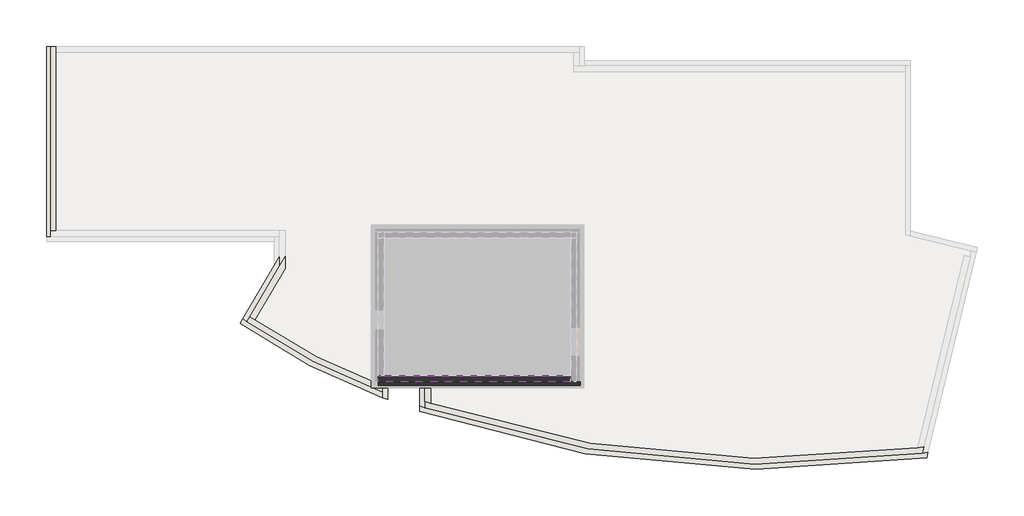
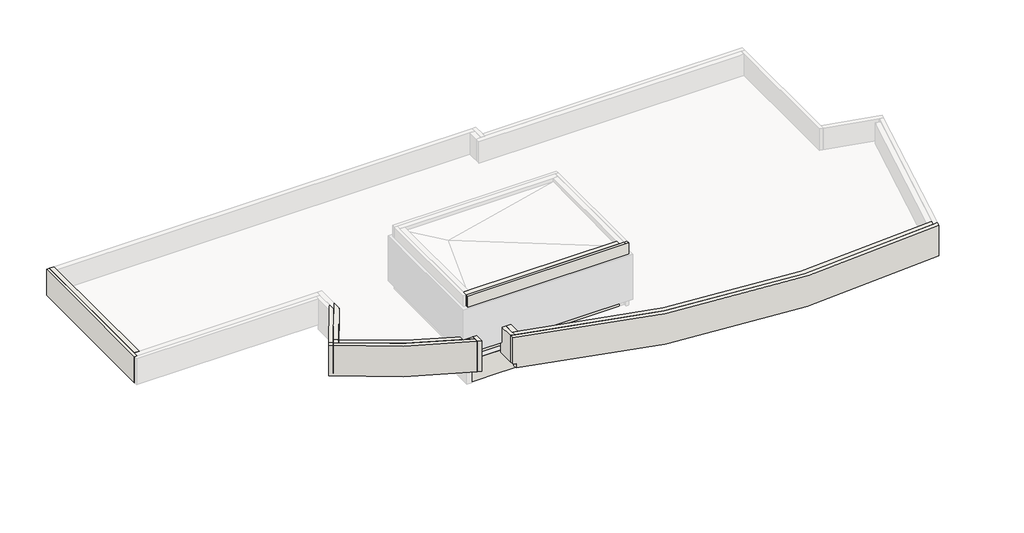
# One storey, part 1 of 2: 15 walls.
"""IFC4 building model written with IfcOpenShell, lengths in millimetres."""

from ifc_helpers import new_model, si_unit, point, frame, frame_2d, origin, place, context, project, spatial, polyline, circle_curve, trimmed, segment, composite_curve, outline, extrude, faceted_brep, element, save
from ifc_brep_helpers import plane_surface, cylinder_surface, revolved_surface, advanced_brep

model = new_model("IFC4")

# Units and contexts
model_context = context("Model", 3, world=origin())
ifc_project = project(units=[si_unit("LENGTHUNIT", "METRE", prefix="MILLI")], contexts=[model_context])

# Site, building, storey
site = spatial("IfcSite", under=ifc_project)
building = spatial("IfcBuilding", under=site)
storey = spatial("IfcBuildingStorey", under=building, Name="Этаж 3", Elevation=7100.0)

# Walls
placement = place(None, origin())
element("IfcWall", 1, ObjectType="(Вн)_(ЖБ-200)", at=placement, inside=storey, context=model_context, shape_type="Brep", body=[
    faceted_brep([(16070.291724, 0.0, 5900.0), (9750.291724, 0.0, 5900.0), (9750.291724, 0.0, 6900.0), (16070.291724, 0.0, 6900.0), (16070.291724, -200.0, 5900.0), (16070.291724, -200.0, 6900.0), (11270.291724, -200.0, 6900.0), (11070.291724, -200.0, 6900.0), (9750.291724, -200.0, 6900.0), (9750.291724, -200.0, 6700.0), (9750.291724, -200.0, 5900.0), (11070.291724, -200.0, 5900.0), (11270.291724, -200.0, 5900.0), (9750.291724, -100.0, 6900.0)], [[[0, 1, 2, 3]], [[4, 5, 6, 7, 8, 9, 10, 11, 12]], [[1, 0, 4, 12, 11, 10]], [[3, 2, 13, 8, 7, 6, 5]], [[0, 3, 5, 4]], [[1, 10, 9, 8, 13, 2]]]),
])
element("IfcWall", 2, ObjectType="(Нр)_(ЖБ-200)", at=placement, inside=storey, context=model_context, shape_type="Brep", body=[
    faceted_brep([(16070.0, 0.0, 9400.0), (9750.291724, 0.0, 9400.0), (9550.291724, 0.0, 9400.0), (9550.291724, 0.0, 9900.0), (9750.291724, 0.0, 9900.0), (16070.0, 0.0, 9900.0), (16070.0, -200.0, 9400.0), (16070.0, -200.0, 9900.0), (9550.291724, -200.0, 9900.0), (9550.291724, -200.0, 9400.0)], [[[0, 1, 2, 3, 4, 5]], [[6, 7, 8, 9]], [[2, 1, 0, 6, 9]], [[5, 4, 3, 8, 7]], [[0, 5, 7, 6]], [[3, 2, 9, 8]]]),
])
element("IfcWall", 3, ObjectType="(Нр)_(ЖБ-200)", at=placement, inside=storey, context=model_context, shape_type="Brep", body=[
    faceted_brep([(16070.0, 0.0, 7100.0), (9872.291724, 0.0, 7100.0), (9872.291724, 0.0, 8070.0), (9550.291724, 0.0, 8070.0), (9550.291724, 0.0, 9200.0), (9750.291724, 0.0, 9200.0), (16070.0, 0.0, 9200.0), (16070.0, -200.0, 7100.0), (16070.0, -200.0, 9200.0), (9550.291724, -200.0, 9200.0), (9550.291724, -200.0, 8070.0), (9872.291724, -200.0, 8070.0), (9872.291724, -200.0, 7100.0)], [[[0, 1, 2, 3, 4, 5, 6]], [[7, 8, 9, 10, 11, 12]], [[1, 0, 7, 12]], [[6, 5, 4, 9, 8]], [[0, 6, 8, 7]], [[10, 3, 2, 11]], [[1, 12, 11, 2]], [[4, 3, 10, 9]]]),
])
element("IfcWall", 4, ObjectType="(Нр)_(Ут-120.От-90)", at=placement, inside=storey, context=model_context, shape_type="SweptSolid", body=[
    extrude(outline(polyline([(9900.0, 9550.291724), (7960.0, 9550.291724), (7960.0, 9702.291724), (7330.0, 9702.291724), (7330.0, 16390.0), (9900.0, 16390.0), (9900.0, 9550.291724)])), frame((0.0, -320.0, 0.0), z_axis=(0.0, 1.0, 0.0), x_axis=(0.0, 0.0, 1.0)), (0.0, 0.0, 1.0), 120.0),
])
element("IfcWall", 5, ObjectType="(Нр)_(Ут-170.От-90)", at=placement, inside=storey, context=model_context, shape_type="AdvancedBrep", body=[
    advanced_brep(
    [(28193.7211946, -2597.5053941, 8070.0), (28012.2479026, -2624.6032234, 8070.0), (11120.3042421, -1078.4576732, 8070.0), (10950.291724, -1020.0856746, 8070.0), (10950.291724, -1199.9303846, 8070.0), (28150.5488056, -2775.9473893, 8070.0), (28193.7211946, -2597.5053941, 6700.0), (28150.5488056, -2775.9473893, 6700.0), (11070.291724, -1241.0131998, 6700.0), (11070.291724, -1114.2267765, 6700.0), (11070.291724, -1061.3846396, 6700.0), (28012.2478595, -2624.6032282, 6700.0), (11070.291724, -1061.3846396, 6900.0), (10950.291724, -1020.0856746, 6900.0), (10950.291724, -1199.9303846, 6900.0), (11070.291724, -1241.0131998, 6900.0)],
    [
        (0, 1, circle_curve(frame((22767.3792211, 33121.1499768, 8070.0), z_axis=(0.0, 0.0, -1.0), x_axis=(1.0, 0.0, 0.0)), 36128.4863884)),
        (1, 2, circle_curve(frame((22767.3792211, 33121.1499768, 8070.0), z_axis=(0.0, 0.0, -1.0), x_axis=(1.0, 0.0, 0.0)), 36128.4862586)),
        (2, 3, circle_curve(frame((22767.3792211, 33121.1499768, 8070.0), z_axis=(0.0, 0.0, -1.0), x_axis=(1.0, 0.0, 0.0)), 36128.4862536)),
        (3, 4),
        (4, 5, circle_curve(frame((22767.3792211, 33121.1499768, 8070.0), z_axis=(0.0, 0.0, 1.0), x_axis=(1.0, 0.0, 0.0)), 36298.4863884)),
        (5, 0),
        (6, 7),
        (7, 8, circle_curve(frame((22767.3792211, 33121.1499768, 6700.0), z_axis=(0.0, 0.0, -1.0), x_axis=(1.0, 0.0, 0.0)), 36298.4863884)),
        (8, 9),
        (9, 10),
        (10, 11, circle_curve(frame((22767.3792211, 33121.1499768, 6700.0), z_axis=(0.0, 0.0, 1.0), x_axis=(1.0, 0.0, 0.0)), 36128.4863884)),
        (11, 6, circle_curve(frame((22767.3792211, 33121.1499768, 6700.0), z_axis=(0.0, 0.0, 1.0), x_axis=(1.0, 0.0, 0.0)), 36128.4862571)),
        (0, 6),
        (10, 12),
        (12, 13, circle_curve(frame((22767.3792211, 33121.1499768, 6900.0), z_axis=(0.0, 0.0, -1.0), x_axis=(1.0, 0.0, 0.0)), 36128.4863884)),
        (13, 3),
        (4, 14),
        (14, 15, circle_curve(frame((22767.3792211, 33121.1499768, 6900.0), z_axis=(0.0, 0.0, 1.0), x_axis=(1.0, 0.0, 0.0)), 36298.4863884)),
        (15, 8),
        (7, 5),
        (13, 14),
        (12, 15),
    ],
    [
        plane_surface(frame((58895.8656095, 33121.1499768, 8070.0), z_axis=(0.0, 0.0, 1.0), x_axis=(0.0, -1.0, 0.0))),
        plane_surface(frame((58895.8656095, 33121.1499768, 6700.0), z_axis=(0.0, 0.0, -1.0), x_axis=(0.0, 1.0, 0.0))),
        revolved_surface(polyline([(58895.865609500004, 33121.1499768, 6700.0), (58895.865609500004, 33121.1499768, 8070.0)]), (22767.3792211, 33121.1499768, 6700.0), (0.0, 0.0, -1.0)),
        cylinder_surface(frame((22767.3792211, 33121.1499768, 6700.0), z_axis=(0.0, 0.0, 1.0), x_axis=(1.0, 0.0, 0.0)), 36298.4863884),
        plane_surface(frame((10950.291724, -200.0, 6900.0), z_axis=(-1.0, 0.0, 0.0), x_axis=(0.0, -1.0, 0.0))),
        plane_surface(frame((11037.8878639, -1050.2790425, 6900.0), z_axis=(0.0, 0.0, -1.0), x_axis=(1.0, 0.0, 0.0))),
        plane_surface(frame((11070.291724, -200.0, 3500.0), z_axis=(-1.0, 0.0, 0.0), x_axis=(0.0, 1.0, 0.0))),
        plane_surface(frame((28177.4935969, -2664.5780064, 6700.0), z_axis=(0.9719576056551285, -0.23515614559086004, 0.0), x_axis=(0.23515614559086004, 0.9719576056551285, 0.0))),
    ],
    [
        (0, [[1, 2, 3, 4, 5, 6]]),
        (1, [[7, 8, 9, 10, 11, 12]]),
        (2, [[-3, -2, -1, 13, -12, -11, 14, 15, 16]]),
        (3, [[-5, 17, 18, 19, -8, 20]]),
        (4, [[-4, -16, 21, -17]]),
        (5, [[-21, -15, 22, -18]]),
        (6, [[-14, -10, -9, -19, -22]]),
        (7, [[-6, -20, -7, -13]]),
    ],
),
])
element("IfcWall", 6, ObjectType="(Нр)_(ЖБ-200)", at=placement, inside=storey, context=model_context, shape_type="AdvancedBrep", body=[
    advanced_brep(
    [(11120.291724, -1078.4535524, 8070.0), (28012.260804, -2624.6014616, 8070.0), (28062.9900299, -2414.925219, 8070.0), (27849.6738956, -2446.0597234, 8070.0), (11320.3043054, -934.98899, 8070.0), (11120.291724, -867.1051564, 8070.0), (28012.260804, -2624.6014616, 7100.0), (11120.291724, -1078.4535524, 7100.0), (11120.291724, -867.1051564, 7100.0), (11320.291724, -934.984889, 7100.0), (27849.6874714, -2446.0579121, 7100.0), (28062.9900299, -2414.925219, 7100.0)],
    [
        (0, 1, circle_curve(frame((22767.3792211, 33121.1499768, 8070.0), z_axis=(0.0, 0.0, 1.0), x_axis=(1.0, 0.0, 0.0)), 36128.4863884)),
        (1, 2),
        (2, 3, circle_curve(frame((22767.3792211, 33121.1499768, 8070.0), z_axis=(0.0, 0.0, -1.0), x_axis=(1.0, 0.0, 0.0)), 35928.4863884)),
        (3, 4, circle_curve(frame((22767.3792211, 33121.1499768, 8070.0), z_axis=(0.0, 0.0, -1.0), x_axis=(1.0, 0.0, 0.0)), 35928.4862612)),
        (4, 5, circle_curve(frame((22767.3792211, 33121.1499768, 8070.0), z_axis=(0.0, 0.0, -1.0), x_axis=(1.0, 0.0, 0.0)), 35928.4862672)),
        (5, 0),
        (6, 7, circle_curve(frame((22767.3792211, 33121.1499768, 7100.0), z_axis=(0.0, 0.0, -1.0), x_axis=(1.0, 0.0, 0.0)), 36128.4863884)),
        (7, 8),
        (8, 9, circle_curve(frame((22767.3792211, 33121.1499768, 7100.0), z_axis=(0.0, 0.0, 1.0), x_axis=(1.0, 0.0, 0.0)), 35928.4863884)),
        (9, 10, circle_curve(frame((22767.3792211, 33121.1499768, 7100.0), z_axis=(0.0, 0.0, 1.0), x_axis=(1.0, 0.0, 0.0)), 35928.4863884)),
        (10, 11, circle_curve(frame((22767.3792211, 33121.1499768, 7100.0), z_axis=(0.0, 0.0, 1.0), x_axis=(1.0, 0.0, 0.0)), 35928.4863884)),
        (11, 6),
        (0, 7),
        (6, 1),
        (2, 11),
        (8, 5),
    ],
    [
        plane_surface(frame((58895.8656095, 33121.1499768, 8070.0), z_axis=(0.0, 0.0, 1.0), x_axis=(0.0, 1.0, 0.0))),
        plane_surface(frame((58895.8656095, 33121.1499768, 7100.0), z_axis=(0.0, 0.0, -1.0), x_axis=(0.0, -1.0, 0.0))),
        cylinder_surface(frame((22767.3792211, 33121.1499768, 7100.0), z_axis=(0.0, 0.0, 1.0), x_axis=(1.0, 0.0, 0.0)), 36128.4863884),
        revolved_surface(polyline([(58695.865609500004, 33121.1499768, 7100.0), (58695.865609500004, 33121.1499768, 8070.0)]), (22767.3792211, 33121.1499768, 7100.0), (0.0, 0.0, -1.0)),
        plane_surface(frame((11120.291724, -1114.2267765, 7100.0), z_axis=(-1.0, 0.0, 0.0), x_axis=(0.0, -1.0, 0.0))),
        plane_surface(frame((29685.1406795, 4289.8183777, 7100.0), z_axis=(0.9719576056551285, -0.23515614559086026, 0.0), x_axis=(0.23515614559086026, 0.9719576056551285, 0.0))),
    ],
    [
        (0, [[1, 2, 3, 4, 5, 6]]),
        (1, [[7, 8, 9, 10, 11, 12]]),
        (2, [[-1, 13, -7, 14]]),
        (3, [[-5, -4, -3, 15, -11, -10, -9, 16]]),
        (4, [[-6, -16, -8, -13]]),
        (5, [[-2, -14, -12, -15]]),
    ],
),
])
element("IfcWall", 7, ObjectType="(Нр)_(ЖБ-200)", at=placement, inside=storey, context=model_context, shape_type="SweptSolid", body=[
    extrude(outline(composite_curve([segment(polyline([(11320.291724, -410.0), (11320.291724, -934.984889)]), True, "CONTINUOUS"), segment(trimmed(circle_curve(frame_2d((22767.3792211, 33121.1499768)), 35928.4863884), [point((11320.291724, -934.984889))], [point((11120.291724, -867.1051564))], False, "CARTESIAN"), True, "CONTINUOUS"), segment(polyline([(11120.291724, -867.1051564), (11120.291724, -410.0), (11320.291724, -410.0)]), True, "CONTINUOUS")], self_intersect=False)), frame((0.0, 0.0, 7100.0), z_axis=(0.0, 0.0, 1.0), x_axis=(1.0, 0.0, 0.0)), (0.0, 0.0, 1.0), 970.0),
])
element("IfcWall", 8, ObjectType="(Нр)_(Ут-170.От-90)", at=placement, inside=storey, context=model_context, shape_type="AdvancedBrep", body=[
    advanced_brep(
    [(11120.291724, -1078.4535524, 6900.0), (11120.291724, -320.0, 6900.0), (11120.291724, -320.0, 7440.0), (11120.291724, -320.0, 8070.0), (11120.291724, -1078.4535524, 8070.0), (10950.291724, -1020.0856746, 6900.0), (10950.291724, -1020.0856746, 8070.0), (10950.291724, -320.0, 8070.0), (10950.291724, -320.0, 6900.0), (11070.291694, -1061.3846293, 6900.0), (11070.291724, -320.0, 6900.0)],
    [
        (0, 1),
        (1, 2),
        (2, 3),
        (3, 4),
        (4, 0),
        (5, 6),
        (6, 7),
        (7, 8),
        (8, 5),
        (0, 9, circle_curve(frame((22767.3792211, 33121.1499768, 6900.0), z_axis=(0.0, 0.0, -1.0), x_axis=(1.0, 0.0, 0.0)), 36128.4863884)),
        (9, 5, circle_curve(frame((22767.3792211, 33121.1499768, 6900.0), z_axis=(0.0, 0.0, -1.0), x_axis=(1.0, 0.0, 0.0)), 36128.4863884)),
        (8, 10),
        (10, 1),
        (3, 7),
        (6, 4, circle_curve(frame((22767.3792211, 33121.1499768, 8070.0), z_axis=(0.0, 0.0, 1.0), x_axis=(1.0, 0.0, 0.0)), 36128.4863884)),
    ],
    [
        plane_surface(frame((11120.291724, -200.0, 6900.0), z_axis=(1.0, 0.0, 0.0), x_axis=(0.0, 1.0, 0.0))),
        plane_surface(frame((10950.291724, -200.0, 6900.0), z_axis=(-1.0, 0.0, 0.0), x_axis=(0.0, -1.0, 0.0))),
        plane_surface(frame((11120.291724, -1139.2458085, 6900.0), z_axis=(0.0, 0.0, -1.0), x_axis=(-1.0, 0.0, 0.0))),
        plane_surface(frame((11120.291724, -260.0, 8070.0), z_axis=(0.0, 0.0, 1.0), x_axis=(-1.0, 0.0, 0.0))),
        plane_surface(frame((11120.291724, -320.0, 2950.0), z_axis=(0.0, 1.0, 0.0), x_axis=(0.0, 0.0, 1.0))),
        cylinder_surface(frame((22767.3792211, 33121.1499768, 6700.0), z_axis=(0.0, 0.0, -1.0), x_axis=(1.0, 0.0, 0.0)), 36128.4863884),
    ],
    [
        (0, [[1, 2, 3, 4, 5]]),
        (1, [[6, 7, 8, 9]]),
        (2, [[-1, 10, 11, -9, 12, 13]]),
        (3, [[-4, 14, -7, 15]]),
        (4, [[-3, -2, -13, -12, -8, -14]]),
        (5, [[-5, -15, -6, -11, -10]]),
    ],
),
])
element("IfcWall", 9, ObjectType="(Нр)_(Ут-170.От-90)", at=placement, inside=storey, context=model_context, shape_type="AdvancedBrep", body=[
    advanced_brep(
    [(9872.291724, -801.5592777, 6700.0), (9872.291724, -320.0, 6700.0), (9872.291724, -320.0, 7440.0), (9872.291724, 0.0, 7440.0), (9872.291724, 0.0, 8070.0), (9872.291724, -801.5592777, 8070.0), (9702.291724, -740.7343338, 6700.0), (9702.291724, -740.7343338, 8070.0), (9702.291724, -559.7990257, 8070.0), (9702.291724, 0.0, 8070.0), (9702.291724, 0.0, 7440.0), (9702.291724, -320.0, 7440.0), (9702.291724, -320.0, 6700.0), (9702.291724, -559.7990257, 6700.0)],
    [
        (0, 1),
        (1, 2),
        (2, 3),
        (3, 4),
        (4, 5),
        (5, 0),
        (6, 7),
        (7, 8),
        (8, 9),
        (9, 10),
        (10, 11),
        (11, 12),
        (12, 13),
        (13, 6),
        (0, 6, circle_curve(frame((16778.7203102, 18769.2388228, 6700.0), z_axis=(0.0, 0.0, -1.0), x_axis=(1.0, 0.0, 0.0)), 20753.6718223)),
        (12, 1),
        (4, 9),
        (7, 5, circle_curve(frame((16778.7203102, 18769.2388228, 8070.0), z_axis=(0.0, 0.0, 1.0), x_axis=(1.0, 0.0, 0.0)), 20753.6718223)),
        (10, 3),
        (2, 11),
    ],
    [
        plane_surface(frame((9872.291724, -559.2270152, 6700.0), z_axis=(1.0, 0.0, 0.0), x_axis=(0.0, 1.0, 0.0))),
        plane_surface(frame((9702.291724, -559.2270152, 6700.0), z_axis=(-1.0, 0.0, 0.0), x_axis=(0.0, -1.0, 0.0))),
        plane_surface(frame((9872.291724, -681.0547796, 6700.0), z_axis=(0.0, 0.0, -1.0), x_axis=(-1.0, 0.0, 0.0))),
        plane_surface(frame((9872.291724, -175.7442993, 8070.0), z_axis=(0.0, 0.0, 1.0), x_axis=(-1.0, 0.0, 0.0))),
        cylinder_surface(frame((16778.7203102, 18769.2388228, 6700.0), z_axis=(0.0, 0.0, 1.0), x_axis=(1.0, 0.0, 0.0)), 20753.6718223),
        plane_surface(frame((9872.291724, -175.7442993, 7440.0), z_axis=(0.0, 0.0, -1.0), x_axis=(1.0, 0.0, 0.0))),
        plane_surface(frame((11120.291724, -320.0, 2950.0), z_axis=(0.0, 1.0, 0.0), x_axis=(0.0, 0.0, 1.0))),
        plane_surface(frame((16070.0, 0.0, 7100.0), z_axis=(0.0, 1.0, 0.0), x_axis=(-1.0, 0.0, 0.0))),
    ],
    [
        (0, [[1, 2, 3, 4, 5, 6]]),
        (1, [[7, 8, 9, 10, 11, 12, 13, 14]]),
        (2, [[-1, 15, -14, -13, 16]]),
        (3, [[-5, 17, -9, -8, 18]]),
        (4, [[-6, -18, -7, -15]]),
        (5, [[19, -3, 20, -11]]),
        (6, [[-16, -12, -20, -2]]),
        (7, [[-4, -19, -10, -17]]),
    ],
),
])
element("IfcWall", 10, ObjectType="(Нр)_(Ут-170.От-90)", at=placement, inside=storey, context=model_context, shape_type="AdvancedBrep", body=[
    advanced_brep(
    [(4850.8283195, 1785.7089552, 8070.0), (9702.291724, -740.7343338, 8070.0), (9702.291724, -559.7990257, 8070.0), (5077.2619005, 1835.1486955, 8070.0), (4937.381453, 1932.6643566, 8070.0), (4850.8283195, 1785.7089552, 6700.0), (4937.381453, 1932.6643566, 6700.0), (5077.2619005, 1835.1486955, 6700.0), (9702.291724, -559.7990257, 6700.0), (9702.291724, -740.7343338, 6700.0)],
    [
        (0, 1, circle_curve(frame((16778.7203102, 18769.2388228, 8070.0), z_axis=(0.0, 0.0, 1.0), x_axis=(1.0, 0.0, 0.0)), 20753.6718223)),
        (1, 2),
        (2, 3, circle_curve(frame((16778.7203102, 18769.2388228, 8070.0), z_axis=(0.0, 0.0, -1.0), x_axis=(1.0, 0.0, 0.0)), 20583.6718223)),
        (3, 4, circle_curve(frame((16778.7203102, 18769.2388228, 8070.0), z_axis=(0.0, 0.0, -1.0), x_axis=(1.0, 0.0, 0.0)), 20583.6716199)),
        (4, 0),
        (5, 6),
        (6, 7, circle_curve(frame((16778.7203102, 18769.2388228, 6700.0), z_axis=(0.0, 0.0, 1.0), x_axis=(1.0, 0.0, 0.0)), 20583.6718223)),
        (7, 8, circle_curve(frame((16778.7203102, 18769.2388228, 6700.0), z_axis=(0.0, 0.0, 1.0), x_axis=(1.0, 0.0, 0.0)), 20583.6716199)),
        (8, 9),
        (9, 5, circle_curve(frame((16778.7203102, 18769.2388228, 6700.0), z_axis=(0.0, 0.0, -1.0), x_axis=(1.0, 0.0, 0.0)), 20753.6718223)),
        (0, 5),
        (9, 1),
        (2, 8),
        (6, 4),
    ],
    [
        plane_surface(frame((37532.3921325, 18769.2388228, 8070.0), z_axis=(0.0, 0.0, 1.0), x_axis=(0.0, 1.0, 0.0))),
        plane_surface(frame((37532.3921325, 18769.2388228, 6700.0), z_axis=(0.0, 0.0, -1.0), x_axis=(0.0, -1.0, 0.0))),
        cylinder_surface(frame((16778.7203102, 18769.2388228, 6700.0), z_axis=(0.0, 0.0, 1.0), x_axis=(1.0, 0.0, 0.0)), 20753.6718223),
        revolved_surface(polyline([(37362.3921325, 18769.2388228, 6700.0), (37362.3921325, 18769.2388228, 8070.0)]), (16778.7203102, 18769.2388228, 6700.0), (0.0, 0.0, -1.0)),
        plane_surface(frame((9702.291724, -559.2270152, 6700.0), z_axis=(1.0, 0.0, 0.0), x_axis=(0.0, -1.0, 0.0))),
        plane_surface(frame((6033.8103149, 3794.2508407, 6700.0), z_axis=(-0.8616553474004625, 0.5074939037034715, 0.0), x_axis=(-0.5074939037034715, -0.8616553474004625, 0.0))),
    ],
    [
        (0, [[1, 2, 3, 4, 5]]),
        (1, [[6, 7, 8, 9, 10]]),
        (2, [[-1, 11, -10, 12]]),
        (3, [[-4, -3, 13, -8, -7, 14]]),
        (4, [[-2, -12, -9, -13]]),
        (5, [[-5, -14, -6, -11]]),
    ],
),
])
element("IfcWall", 11, ObjectType="(Нр)_(ЖБ-200)", at=placement, inside=storey, context=model_context, shape_type="AdvancedBrep", body=[
    advanced_brep(
    [(5077.1985766, 1835.0753462, 8070.0), (9702.291724, -559.9609766, 8070.0), (9702.291724, -346.7826681, 8070.0), (5344.4481984, 1894.6953312, 8070.0), (5178.9612546, 2007.8544773, 8070.0), (5077.1985766, 1835.0753462, 7100.0), (5178.9612546, 2007.8544773, 7100.0), (5344.4481984, 1894.6953312, 7100.0), (9702.291724, -346.7826681, 7100.0), (9702.291724, -559.9609766, 7100.0)],
    [
        (0, 1, circle_curve(frame((16832.6255007, 18872.8552409, 8070.0), z_axis=(0.0, 0.0, 1.0), x_axis=(1.0, 0.0, 0.0)), 20699.6619757)),
        (1, 2),
        (2, 3, circle_curve(frame((16832.6255007, 18872.8552409, 8070.0), z_axis=(0.0, 0.0, -1.0), x_axis=(1.0, 0.0, 0.0)), 20499.6619757)),
        (3, 4, circle_curve(frame((16832.6255007, 18872.8552409, 8070.0), z_axis=(0.0, 0.0, -1.0), x_axis=(1.0, 0.0, 0.0)), 20499.6617447)),
        (4, 0),
        (5, 6),
        (6, 7, circle_curve(frame((16832.6255007, 18872.8552409, 7100.0), z_axis=(0.0, 0.0, 1.0), x_axis=(1.0, 0.0, 0.0)), 20499.6619757)),
        (7, 8, circle_curve(frame((16832.6255007, 18872.8552409, 7100.0), z_axis=(0.0, 0.0, 1.0), x_axis=(1.0, 0.0, 0.0)), 20499.6617447)),
        (8, 9),
        (9, 5, circle_curve(frame((16832.6255007, 18872.8552409, 7100.0), z_axis=(0.0, 0.0, -1.0), x_axis=(1.0, 0.0, 0.0)), 20699.6619757)),
        (0, 5),
        (9, 1),
        (2, 8),
        (6, 4),
    ],
    [
        plane_surface(frame((37532.2874764, 18872.8552409, 8070.0), z_axis=(0.0, 0.0, 1.0), x_axis=(0.0, 1.0, 0.0))),
        plane_surface(frame((37532.2874764, 18872.8552409, 7100.0), z_axis=(0.0, 0.0, -1.0), x_axis=(0.0, -1.0, 0.0))),
        cylinder_surface(frame((16832.6255007, 18872.8552409, 7100.0), z_axis=(0.0, 0.0, 1.0), x_axis=(1.0, 0.0, 0.0)), 20699.6619757),
        revolved_surface(polyline([(37332.2874764, 18872.8552409, 7100.0), (37332.2874764, 18872.8552409, 8070.0)]), (16832.6255007, 18872.8552409, 7100.0), (0.0, 0.0, -1.0)),
        plane_surface(frame((9702.291724, -559.2270152, 6700.0), z_axis=(1.0, 0.0, 0.0), x_axis=(0.0, -1.0, 0.0))),
        plane_surface(frame((5053.6071782, 1795.0203734, 7100.0), z_axis=(-0.8616553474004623, 0.5074939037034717, 0.0), x_axis=(-0.5074939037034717, -0.8616553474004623, 0.0))),
    ],
    [
        (0, [[1, 2, 3, 4, 5]]),
        (1, [[6, 7, 8, 9, 10]]),
        (2, [[-1, 11, -10, 12]]),
        (3, [[-4, -3, 13, -8, -7, 14]]),
        (4, [[-2, -12, -9, -13]]),
        (5, [[-5, -14, -6, -11]]),
    ],
),
])
element("IfcWall", 12, ObjectType="(Нр)_(ЖБ-200)", at=placement, inside=storey, context=model_context, shape_type="AdvancedBrep", body=[
    advanced_brep(
    [(5344.4312461, 1894.706523, 7100.0), (6380.291724, 3653.456162, 7100.0), (6380.291724, 3653.456162, 8070.0), (5344.4312461, 1894.706523, 8070.0), (5178.9612546, 2007.8544773, 7100.0), (5178.9612546, 2007.8544773, 8070.0), (6180.291724, 3707.9768771, 8070.0), (6380.291724, 4047.5495659, 8070.0), (6380.291724, 4047.5495659, 7100.0), (6180.291724, 3707.9768771, 7100.0)],
    [
        (0, 1),
        (1, 2),
        (2, 3),
        (3, 0),
        (4, 5),
        (5, 6),
        (6, 7),
        (7, 8),
        (8, 9),
        (9, 4),
        (0, 4, circle_curve(frame((16832.6255007, 18872.8552409, 7100.0), z_axis=(0.0, 0.0, -1.0), x_axis=(1.0, 0.0, 0.0)), 20499.6619757)),
        (8, 1),
        (2, 7),
        (5, 3, circle_curve(frame((16832.6255007, 18872.8552409, 8070.0), z_axis=(0.0, 0.0, 1.0), x_axis=(1.0, 0.0, 0.0)), 20499.6619757)),
    ],
    [
        plane_surface(frame((5225.9382477, 1693.5215927, 7100.0), z_axis=(0.8616553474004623, -0.5074939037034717, 0.0), x_axis=(0.5074939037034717, 0.8616553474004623, 0.0))),
        plane_surface(frame((5053.6071782, 1795.0203734, 7100.0), z_axis=(-0.8616553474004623, 0.5074939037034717, 0.0), x_axis=(-0.5074939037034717, -0.8616553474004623, 0.0))),
        plane_surface(frame((5296.8725144, 1813.9582911, 7100.0), z_axis=(0.0, 0.0, -1.0000000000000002), x_axis=(-0.8616553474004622, 0.507493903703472, 0.0))),
        plane_surface(frame((6366.4572587, 3629.9671291, 8070.0), z_axis=(0.0, 0.0, 1.0000000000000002), x_axis=(-0.8616553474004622, 0.507493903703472, 0.0))),
        cylinder_surface(frame((16832.6255007, 18872.8552409, 7100.0), z_axis=(0.0, 0.0, -1.0), x_axis=(1.0, 0.0, 0.0)), 20499.6619757),
        plane_surface(frame((6380.291724, 3721.6070558, 7100.0), z_axis=(1.0, 0.0, 0.0), x_axis=(0.0, 1.0, 0.0))),
    ],
    [
        (0, [[1, 2, 3, 4]]),
        (1, [[5, 6, 7, 8, 9, 10]]),
        (2, [[-1, 11, -10, -9, 12]]),
        (3, [[-3, 13, -7, -6, 14]]),
        (4, [[-4, -14, -5, -11]]),
        (5, [[-2, -12, -8, -13]]),
    ],
),
])
element("IfcWall", 13, ObjectType="(Нр)_(Ут-170.От-90)", at=placement, inside=storey, context=model_context, shape_type="AdvancedBrep", body=[
    advanced_brep(
    [(5077.2474953, 1835.1584035, 6700.0), (6180.291724, 3707.9768771, 6700.0), (6180.291724, 3707.9768771, 8070.0), (5077.2474953, 1835.1584035, 8070.0), (4937.381453, 1932.6643566, 6700.0), (4937.381453, 1932.6643566, 8070.0), (6010.291724, 3754.3194849, 8070.0), (6180.291724, 4042.9562704, 8070.0), (6180.291724, 4042.9562704, 6700.0), (6010.291724, 3754.3194849, 6700.0)],
    [
        (0, 1),
        (1, 2),
        (2, 3),
        (3, 0),
        (4, 5),
        (5, 6),
        (6, 7),
        (7, 8),
        (8, 9),
        (9, 4),
        (0, 4, circle_curve(frame((16778.7203102, 18769.2388228, 6700.0), z_axis=(0.0, 0.0, -1.0), x_axis=(1.0, 0.0, 0.0)), 20583.6718223)),
        (8, 1),
        (2, 7),
        (5, 3, circle_curve(frame((16778.7203102, 18769.2388228, 8070.0), z_axis=(0.0, 0.0, 1.0), x_axis=(1.0, 0.0, 0.0)), 20583.6718223)),
    ],
    [
        plane_surface(frame((6180.291724, 3707.9768771, 6700.0), z_axis=(0.8616553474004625, -0.5074939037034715, 0.0), x_axis=(0.5074939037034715, 0.8616553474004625, 0.0))),
        plane_surface(frame((6033.8103149, 3794.2508407, 6700.0), z_axis=(-0.8616553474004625, 0.5074939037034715, 0.0), x_axis=(-0.5074939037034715, -0.8616553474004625, 0.0))),
        plane_surface(frame((5037.2022398, 1767.1670281, 6700.0), z_axis=(0.0, 0.0, -1.0000000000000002), x_axis=(-0.8616553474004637, 0.5074939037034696, 0.0))),
        plane_surface(frame((6168.5324285, 3688.0111991, 8070.0), z_axis=(0.0, 0.0, 1.0000000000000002), x_axis=(-0.8616553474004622, 0.507493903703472, 0.0))),
        cylinder_surface(frame((16778.7203102, 18769.2388228, 6700.0), z_axis=(0.0, 0.0, -1.0), x_axis=(1.0, 0.0, 0.0)), 20583.6718223),
        plane_surface(frame((6180.291724, 4680.0, 6700.0), z_axis=(1.0, 0.0, 0.0), x_axis=(0.0, 1.0, 0.0))),
    ],
    [
        (0, [[1, 2, 3, 4]]),
        (1, [[5, 6, 7, 8, 9, 10]]),
        (2, [[-1, 11, -10, -9, 12]]),
        (3, [[-3, 13, -7, -6, 14]]),
        (4, [[-4, -14, -5, -11]]),
        (5, [[-12, -8, -13, -2]]),
    ],
),
])
element("IfcWall", 14, ObjectType="(Нр)_(ЖБ-200)", at=placement, inside=storey, context=model_context, shape_type="Brep", body=[
    faceted_brep([(-1395.9332962, 4930.0, 7100.0), (-1395.9332962, 10990.0, 7100.0), (-1395.9332962, 11190.0, 7100.0), (-1395.9332962, 11190.0, 8070.0), (-1395.9332962, 10990.0, 8070.0), (-1395.9332962, 4930.0, 8070.0), (-1595.9332962, 4930.0, 7100.0), (-1595.9332962, 4930.0, 8070.0), (-1595.9332962, 11190.0, 8070.0), (-1595.9332962, 11190.0, 7100.0)], [[[0, 1, 2, 3, 4, 5]], [[6, 7, 8, 9]], [[2, 1, 0, 6, 9]], [[5, 4, 3, 8, 7]], [[0, 5, 7, 6]], [[3, 2, 9, 8]]]),
])
element("IfcWall", 15, ObjectType="(Нр)_(Ут-120.От-90)", at=placement, inside=storey, context=model_context, shape_type="SweptSolid", body=[
    extrude(outline(polyline([(-1595.9332962, 11190.0), (-1595.9332962, 4730.0), (-1715.9332962, 4730.0), (-1715.9332962, 11190.0), (-1595.9332962, 11190.0)])), frame((0.0, 0.0, 6900.0), z_axis=(0.0, 0.0, 1.0), x_axis=(1.0, 0.0, 0.0)), (0.0, 0.0, 1.0), 1170.0),
])

save(model, "model.ifc")
